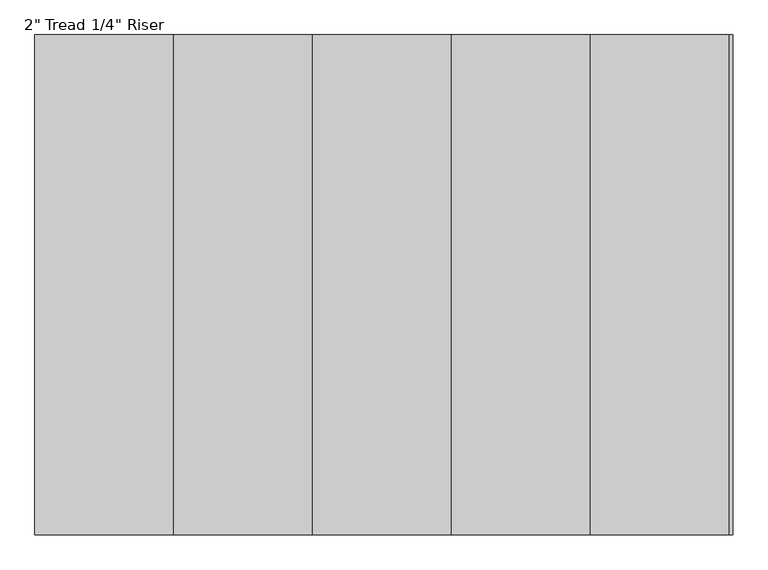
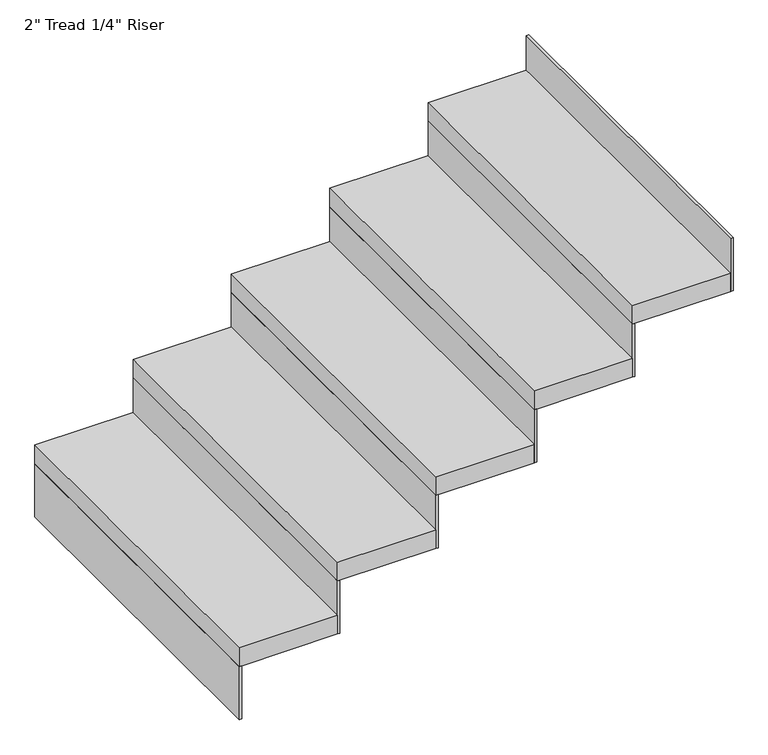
"""IFC4 building model written with IfcOpenShell, lengths in millimetres: stair flight geometry."""

from ifc_helpers import new_model, si_unit, frame, origin, place, context, project, spatial, polyline, outline, extrude, source, transform, mapped, element, save


def stair_flight_8eaf772b(model_context):
    return source(origin(), model_context, "Body", "SweptSolid", [
        extrude(outline(polyline([(34250.3491768, 28700.5361774), (34243.9991768, 28700.5361774), (34243.9991768, 29614.9361774), (34250.3491768, 29614.9361774), (34250.3491768, 28700.5361774)])), frame((0.0, 0.0, 2126.3428571), z_axis=(0.0, 0.0, 1.0), x_axis=(1.0, 0.0, 0.0)), (0.0, 0.0, 1.0), 145.1428571),
        extrude(outline(polyline([(34497.9991768, 29614.9361774), (34497.9991768, 28700.5361774), (34243.9991768, 28700.5361774), (34243.9991768, 29614.9361774), (34497.9991768, 29614.9361774)])), frame((0.0, 0.0, 2271.4857143), z_axis=(0.0, 0.0, 1.0), x_axis=(1.0, 0.0, 0.0)), (0.0, 0.0, 1.0), 50.8),
        extrude(outline(polyline([(34504.3491768, 28700.5361774), (34497.9991768, 28700.5361774), (34497.9991768, 29614.9361774), (34504.3491768, 29614.9361774), (34504.3491768, 28700.5361774)])), frame((0.0, 0.0, 2271.4857143), z_axis=(0.0, 0.0, 1.0), x_axis=(1.0, 0.0, 0.0)), (0.0, 0.0, 1.0), 145.1428571),
        extrude(outline(polyline([(34751.9991768, 29614.9361774), (34751.9991768, 28700.5361774), (34497.9991768, 28700.5361774), (34497.9991768, 29614.9361774), (34751.9991768, 29614.9361774)])), frame((0.0, 0.0, 2416.6285714), z_axis=(0.0, 0.0, 1.0), x_axis=(1.0, 0.0, 0.0)), (0.0, 0.0, 1.0), 50.8),
        extrude(outline(polyline([(34758.3491768, 28700.5361774), (34751.9991768, 28700.5361774), (34751.9991768, 29614.9361774), (34758.3491768, 29614.9361774), (34758.3491768, 28700.5361774)])), frame((0.0, 0.0, 2416.6285714), z_axis=(0.0, 0.0, 1.0), x_axis=(1.0, 0.0, 0.0)), (0.0, 0.0, 1.0), 145.1428571),
        extrude(outline(polyline([(35005.9991768, 29614.9361774), (35005.9991768, 28700.5361774), (34751.9991768, 28700.5361774), (34751.9991768, 29614.9361774), (35005.9991768, 29614.9361774)])), frame((0.0, 0.0, 2561.7714286), z_axis=(0.0, 0.0, 1.0), x_axis=(1.0, 0.0, 0.0)), (0.0, 0.0, 1.0), 50.8),
        extrude(outline(polyline([(35012.3491768, 28700.5361774), (35005.9991768, 28700.5361774), (35005.9991768, 29614.9361774), (35012.3491768, 29614.9361774), (35012.3491768, 28700.5361774)])), frame((0.0, 0.0, 2561.7714286), z_axis=(0.0, 0.0, 1.0), x_axis=(1.0, 0.0, 0.0)), (0.0, 0.0, 1.0), 145.1428571),
        extrude(outline(polyline([(35259.9991768, 29614.9361774), (35259.9991768, 28700.5361774), (35005.9991768, 28700.5361774), (35005.9991768, 29614.9361774), (35259.9991768, 29614.9361774)])), frame((0.0, 0.0, 2706.9142857), z_axis=(0.0, 0.0, 1.0), x_axis=(1.0, 0.0, 0.0)), (0.0, 0.0, 1.0), 50.8),
        extrude(outline(polyline([(35266.3491768, 28700.5361774), (35259.9991768, 28700.5361774), (35259.9991768, 29614.9361774), (35266.3491768, 29614.9361774), (35266.3491768, 28700.5361774)])), frame((0.0, 0.0, 2706.9142857), z_axis=(0.0, 0.0, 1.0), x_axis=(1.0, 0.0, 0.0)), (0.0, 0.0, 1.0), 145.1428571),
        extrude(outline(polyline([(35520.3491768, 28700.5361774), (35513.9991768, 28700.5361774), (35513.9991768, 29614.9361774), (35520.3491768, 29614.9361774), (35520.3491768, 28700.5361774)])), frame((0.0, 0.0, 2852.0571429), z_axis=(0.0, 0.0, 1.0), x_axis=(1.0, 0.0, 0.0)), (0.0, 0.0, 1.0), 145.1428571),
        extrude(outline(polyline([(35513.9991768, 29614.9361774), (35513.9991768, 28700.5361774), (35259.9991768, 28700.5361774), (35259.9991768, 29614.9361774), (35513.9991768, 29614.9361774)])), frame((0.0, 0.0, 2852.0571429), z_axis=(0.0, 0.0, 1.0), x_axis=(1.0, 0.0, 0.0)), (0.0, 0.0, 1.0), 50.8),
    ])


if __name__ == "__main__":
    model = new_model("IFC4")
    model_context = context("Model", 3, world=origin())
    ifc_project = project(units=[si_unit("LENGTHUNIT", "METRE", prefix="MILLI")], contexts=[model_context])
    site = spatial("IfcSite", under=ifc_project)
    building = spatial("IfcBuilding", under=site)
    placement = place(None, origin())
    stair_flight_shape = stair_flight_8eaf772b(model_context)
    element("IfcStairFlight", 1, ObjectType="2\" Tread 1/4\" Riser", at=placement, inside=building, context=model_context, shape_type="MappedRepresentation", body=[
        mapped(stair_flight_shape, transform((0.0, 0.0, 0.0), x_axis=(1.0, 0.0, 0.0), y_axis=(0.0, 1.0, 0.0), z_axis=(0.0, 0.0, 1.0))),
    ])
    save(model, "model.ifc")
